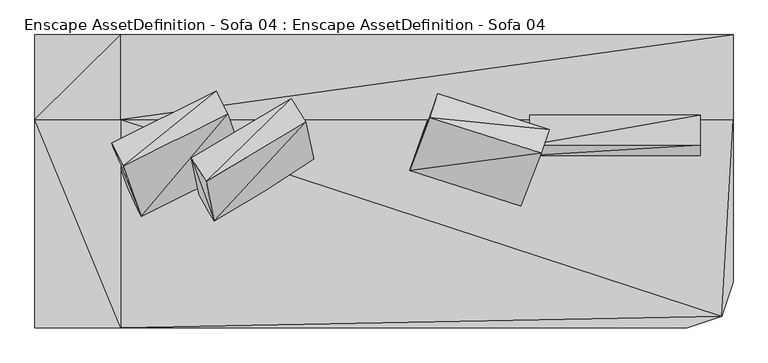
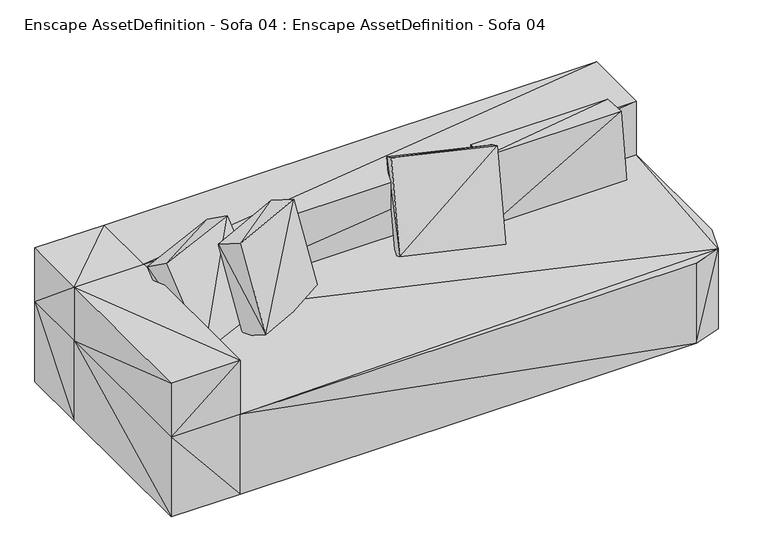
"""IFC4 building model written with IfcOpenShell, lengths in millimetres: geographic element geometry, Enscape AssetDefinition - Sofa 04 : Enscape AssetDefinition - Sofa 04."""

from ifc_helpers import new_model, si_unit, origin, place, context, project, spatial, faceted_brep, source, transform, mapped, element, save


def enscape_assetdefinition_sofa_04_enscape_assetdefinition_sofa_917a1df8(model_context):
    return source(origin(), model_context, "Body", "Brep", [
        faceted_brep([(-1074.7982264, -601.200223, 0.0), (-1436.8101358, -601.200223, 0.0), (-1436.8101358, 276.89749, 0.0), (-1436.8101358, -601.200223, 442.4123764), (-1436.8101358, 276.89749, 442.4123764), (-1436.8101358, 635.2443099, 442.4123764), (-1436.8101358, 635.2443099, 0.0), (-1074.7982264, 276.89749, 0.0), (-1074.7982264, -601.200223, 442.4123168), (1313.0877018, -601.200223, 0.0), (1458.5499763, -552.7127981, 442.4123764), (1458.5499763, -552.7127981, 0.0), (1313.0877018, -601.200223, 442.4123764), (1507.0374012, 276.89749, 0.0), (1507.0374012, -407.2504938, 442.4123764), (1507.0374012, -407.2504938, 0.0), (1507.0374012, 276.89749, 442.4123168), (1507.0374012, 635.2443099, 0.0), (1507.0374012, 635.2443099, 442.4123764), (1507.0374012, 635.2443099, 740.1499152), (1507.0374012, 276.89749, 740.1499152), (-1074.7982264, 276.89749, 442.412287), (-1074.7982264, 635.2443099, 0.0), (-1074.7982264, 635.2443099, 442.4123764), (-1074.7982264, 635.2443099, 740.1499152), (-1074.7982264, 276.89749, 740.1499152), (-1436.8101358, 276.89749, 740.1499152), (-1074.7982264, -601.200223, 740.1499152), (-1436.8101358, 635.2443099, 740.1499152), (-1436.8101358, -601.200223, 740.1499152)], [[[0, 1, 2]], [[3, 1, 0]], [[4, 2, 1]], [[4, 1, 3]], [[5, 6, 2]], [[7, 2, 6]], [[0, 2, 7]], [[5, 2, 4]], [[8, 0, 9]], [[3, 0, 8]], [[7, 9, 0]], [[10, 9, 11]], [[7, 11, 9]], [[8, 9, 12]], [[9, 10, 12]], [[7, 13, 11]], [[14, 11, 15]], [[11, 13, 15]], [[11, 14, 10]], [[14, 15, 13]], [[16, 13, 17]], [[14, 13, 16]], [[7, 17, 13]], [[14, 16, 10]], [[16, 18, 19]], [[16, 20, 21]], [[16, 17, 18]], [[16, 19, 20]], [[10, 16, 21]], [[18, 17, 22]], [[7, 22, 17]], [[18, 23, 24]], [[18, 22, 23]], [[18, 24, 19]], [[25, 20, 19]], [[25, 19, 24]], [[21, 20, 25]], [[21, 25, 8]], [[10, 21, 8]], [[26, 25, 24]], [[26, 27, 25]], [[8, 25, 27]], [[26, 24, 28]], [[23, 28, 24]], [[26, 29, 27]], [[5, 4, 26]], [[5, 26, 28]], [[4, 29, 26]], [[3, 8, 27]], [[3, 27, 29]], [[10, 8, 12]], [[4, 3, 29]], [[23, 5, 28]], [[23, 6, 5]], [[23, 22, 6]], [[7, 6, 22]]]),
        faceted_brep([(1367.814064, 249.3973672, 424.3190289), (649.1359472, 249.3973672, 424.3190289), (1367.814064, 295.5602705, 786.8196368), (649.1359472, 124.75463, 434.8975718), (1367.814064, 124.75463, 434.8975718), (649.1359472, 295.5602705, 786.8196368), (1367.814064, 170.9175706, 797.3980904), (649.1359472, 170.9175706, 797.3980904)], [[[0, 1, 2]], [[3, 1, 4]], [[2, 1, 5]], [[4, 1, 0]], [[3, 5, 1]], [[6, 2, 7]], [[6, 0, 2]], [[7, 2, 5]], [[4, 0, 6]], [[6, 3, 4]], [[7, 3, 6]], [[7, 5, 3]]]),
        faceted_brep([(647.1157074, 12.5456993, 413.6558175), (177.4263978, 163.0639136, 420.1886356), (732.198, 236.2353206, 795.6059575), (142.9987401, 62.7203807, 486.9188666), (612.688005, -87.797828, 480.3860486), (262.5086606, 386.7535293, 802.138865), (697.7703571, 135.8918101, 862.336278), (228.0810028, 286.4100337, 868.8690066)], [[[0, 1, 2]], [[3, 1, 4]], [[2, 1, 5]], [[4, 1, 0]], [[3, 5, 1]], [[6, 2, 7]], [[6, 0, 2]], [[7, 2, 5]], [[4, 0, 6]], [[6, 3, 4]], [[7, 3, 6]], [[7, 5, 3]]]),
        faceted_brep([(-320.2628791, 199.7978538, 372.1021116), (-741.6790724, -50.5943857, 427.0439148), (-355.2548289, 365.5108809, 789.8062468), (-680.2297831, -150.1604766, 471.9614983), (-258.8135898, 100.2317369, 417.019695), (-776.6709924, 115.1186228, 844.7480202), (-293.8055694, 265.9447789, 834.7238302), (-715.2217627, 15.5525161, 889.6656036)], [[[0, 1, 2]], [[3, 1, 4]], [[2, 1, 5]], [[4, 1, 0]], [[3, 5, 1]], [[6, 2, 7]], [[6, 0, 2]], [[7, 2, 5]], [[4, 0, 6]], [[6, 3, 4]], [[7, 3, 6]], [[7, 5, 3]]]),
        faceted_brep([(-595.4200625, 184.0148717, 385.8954012), (-1036.9974375, -34.519244, 409.5333219), (-671.4901924, 397.2597718, 775.6413817), (-988.9345169, -131.7147315, 472.3825157), (-547.3572612, 86.8193805, 448.7445652), (-1113.0675077, 178.7256747, 799.2793322), (-623.4274507, 300.0642955, 838.4906054), (-1065.0047064, 81.530191, 862.1285558)], [[[0, 1, 2]], [[3, 1, 4]], [[2, 1, 5]], [[4, 1, 0]], [[3, 5, 1]], [[6, 2, 7]], [[6, 0, 2]], [[7, 2, 5]], [[4, 0, 6]], [[6, 3, 4]], [[7, 3, 6]], [[7, 5, 3]]]),
    ])


if __name__ == "__main__":
    model = new_model("IFC4")
    model_context = context("Model", 3, world=origin())
    ifc_project = project(units=[si_unit("LENGTHUNIT", "METRE", prefix="MILLI")], contexts=[model_context])
    site = spatial("IfcSite", under=ifc_project)
    building = spatial("IfcBuilding", under=site)
    placement = place(None, origin())
    enscape_assetdefinition_sofa_04_enscape_assetdefinition_sofa_shape = enscape_assetdefinition_sofa_04_enscape_assetdefinition_sofa_917a1df8(model_context)
    element("IfcGeographicElement", 1, ObjectType="Enscape AssetDefinition - Sofa 04 : Enscape AssetDefinition - Sofa 04", at=placement, inside=building, context=model_context, shape_type="MappedRepresentation", body=[
        mapped(enscape_assetdefinition_sofa_04_enscape_assetdefinition_sofa_shape, transform((0.0, 0.0, 0.0), x_axis=(1.0, 0.0, 0.0), y_axis=(0.0, 1.0, 0.0), z_axis=(0.0, 0.0, 1.0))),
    ])
    save(model, "model.ifc")
